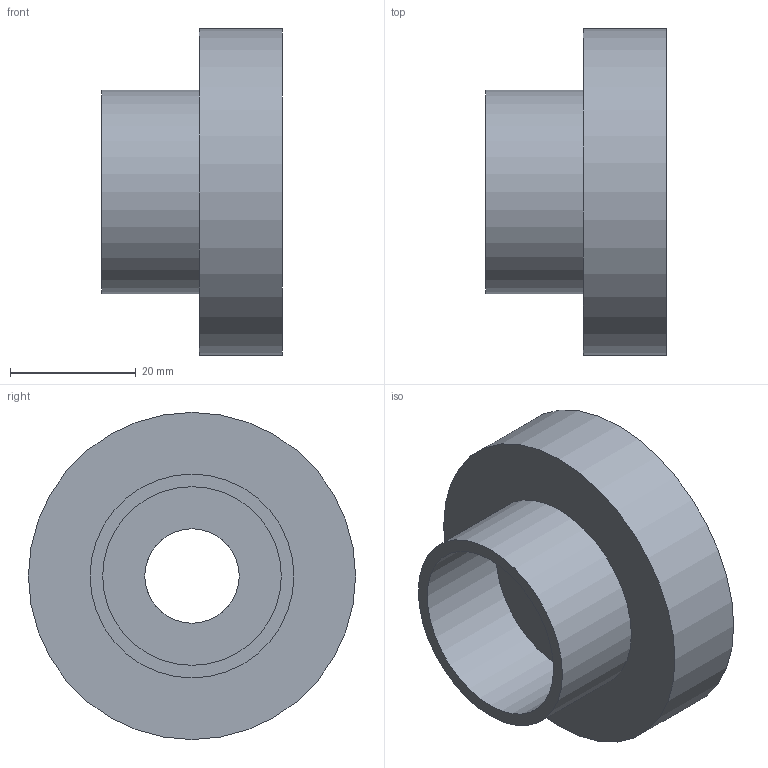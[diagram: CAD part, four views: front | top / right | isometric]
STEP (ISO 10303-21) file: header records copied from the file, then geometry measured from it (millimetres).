
FILE_DESCRIPTION(('Open CASCADE Model'),'2;1');
FILE_NAME('Open CASCADE Shape Model','2026-10-24T14:13:33',('Author'),( 'Open CASCADE'),'Open CASCADE STEP processor 7.9','Open CASCADE 7.9' ,'Unknown');
FILE_SCHEMA(('AUTOMOTIVE_DESIGN { 1 0 10303 214 1 1 1 1 }'));
Length unit declared in the file: millimetre
Products named in the file (1): Open CASCADE STEP translator 7.9 1
Bounding box: 28.7 x 52 x 52 mm (x, y, z)
Volume: 11999.9 mm3; surface area: 11538 mm2
Topology: 1 solids, 1 shells, 58 faces, 155 edges, 100 vertices
Faces by surface type: plane 49, cylinder 9
Full cylindrical faces by diameter (mm): 15 x1, 28.4 x1, 32.4 x1, 40 x1, 40.5 x1, 43.5 x1, 48 x1, 48.4 x1, 52 x1
Entity records: 3516 total; most frequent: CARTESIAN_POINT 573, DIRECTION 561, LINE 365, VECTOR 365, ORIENTED_EDGE 278, PCURVE 278, DEFINITIONAL_REPRESENTATION 278, EDGE_CURVE 139
